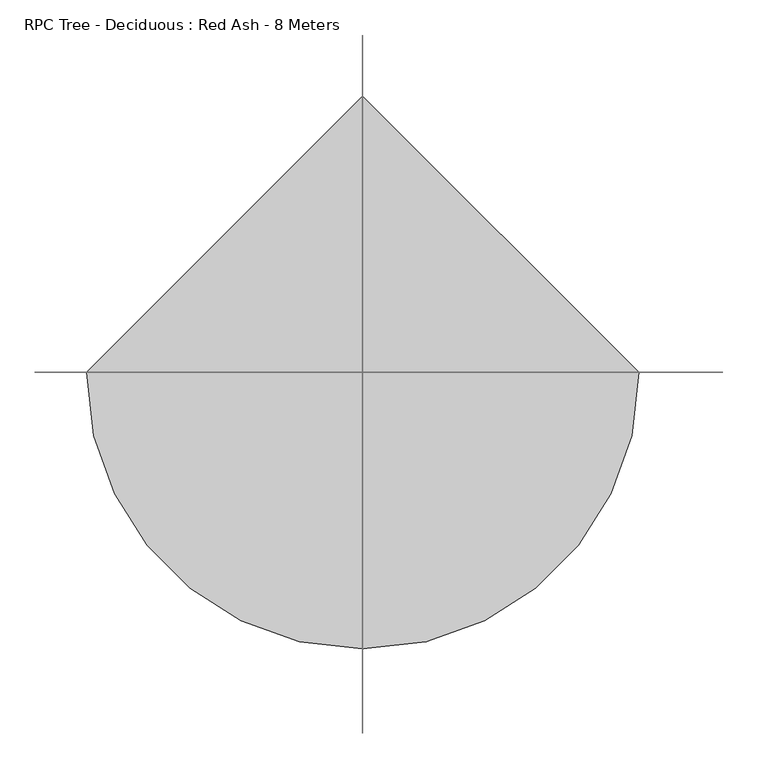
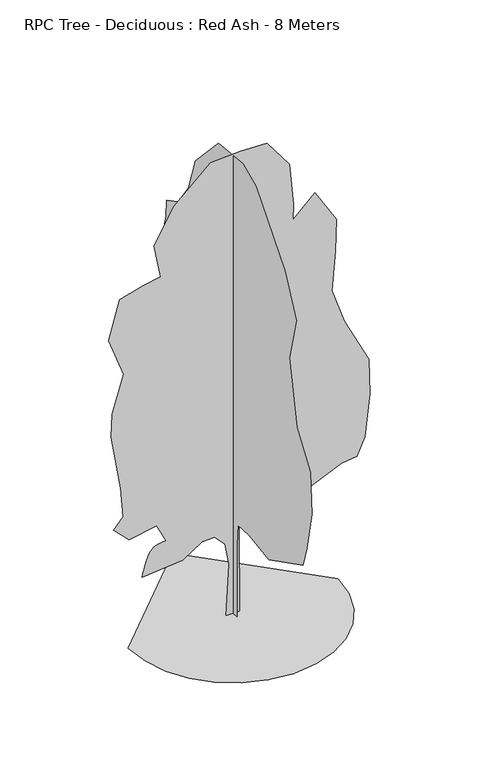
"""IFC4 building model written with IfcOpenShell, lengths in millimetres: geographic element geometry, RPC Tree - Deciduous : Red Ash - 8 Meters."""

from ifc_helpers import new_model, si_unit, origin, place, context, project, spatial, triangles, source, transform, mapped, element, save


def rpc_tree_deciduous_red_ash_8_meters_67bd5bca(model_context):
    return source(origin(), model_context, "Body", "Tessellation", [
        triangles([(-1726.984267, 0.0, 6.49e-05), (-1681.3281876, -395.710621, 6.49e-05), (-1551.3012405, -759.107444, 6.49e-05), (-1347.3138371, -1079.7788589, 6.49e-05), (-1079.7790043, -1347.3139824, 6.49e-05), (-759.1072987, -1551.3008045, 6.49e-05), (-395.7104393, -1681.3281876, 6.49e-05), (7.55e-05, -1726.984267, 6.49e-05), (395.710621, -1681.3283329, 6.49e-05), (759.1075167, -1551.3010952, 6.49e-05), (1079.7790043, -1347.3138371, 6.49e-05), (1347.3142731, -1079.7790043, 6.49e-05), (1551.3009499, -759.107226, 6.49e-05), (1681.3281876, -395.7103303, 6.49e-05), (1726.984267, 0.000151, 6.49e-05), (-0.0002265, 1726.984267, 6.49e-05), (-1.13e-05, -107.9750681, 0.0), (2.63e-05, -106.2957647, 1254.1250484), (3.39e-05, -136.3590096, 1614.4912788), (7e-07, -460.7090881, 1635.8693344), (-6.07e-05, -1025.0827063, 1552.028231), (-0.0001475, -1998.62757, 2045.8552105), (-0.0001483, -2111.5023663, 2412.6983711), (-0.0001429, -2252.595789, 3089.9468582), (-0.0001174, -2210.26814, 3795.4142624), (-6.1e-05, -1827.1727737, 4347.5247482), (-5.8e-06, -1603.5681084, 5417.9896408), (-3.7e-06, -1801.0973305, 6179.8937164), (5.03e-05, -1476.5826908, 6857.1424942), (0.0001647, -658.240781, 7830.6877213), (0.0002084, -286.8248799, 7998.1042465), (0.0002795, 414.0699291, 7929.4532043), (0.0003277, 1077.209321, 7223.9858002), (0.0003306, 1274.7403599, 6631.393483), (0.0003489, 1571.0355011, 6208.1129242), (0.0003777, 1895.5518848, 6038.8011658), (0.0003708, 1909.6610527, 5756.613739), (0.0003699, 1994.3173679, 5432.0986633), (0.0003438, 1853.2239452, 5051.1463348), (0.0003462, 1980.2080547, 4684.3036102), (0.0003443, 2107.1920189, 4176.3671722), (0.0003371, 2078.9735378, 4035.2731682), (0.000302, 1839.1147774, 3696.64907), (0.0002865, 1823.9491333, 3231.0405716), (0.0002764, 1810.8958603, 2934.7441223), (0.0002669, 1825.0051735, 2567.9013977), (0.0002532, 1839.1149227, 2059.9651051), (0.000228, 1641.5838112, 1904.7619331), (0.0001897, 1274.7409412, 1904.7619331), (0.0001918, 1444.0529903, 1382.7161819), (0.0001801, 1415.7429451, 1086.4929113), (0.0001592, 1158.0378902, 1289.0671017), (0.0001036, 660.8531942, 1161.8977564), (0.0001029, 579.2250009, 1424.7358555), (6.6e-05, 226.6800772, 1421.525005), (5.28e-05, 137.3241306, 1289.5900349), (3.43e-05, 83.5163594, 859.0899313), (1.23e-05, 117.7595908, 1.35e-05), (-116.3998627, 5.1e-06, 4.68e-05), (-70.038294, -0.0001013, 875.0673717), (-135.7556944, -0.0001427, 1247.1847744), (-305.2891053, -0.0001575, 1433.4043671), (-507.7548357, -0.0001479, 1426.4529018), (-835.9767345, -0.0001081, 1213.4040602), (-1499.1160538, -7.24e-05, 1156.9668074), (-1489.9429218, -7.71e-05, 1193.4537518), (-1480.1528217, -8.21e-05, 1231.1745598), (-1469.12864, -8.73e-05, 1271.3633858), (-1456.2532631, -9.31e-05, 1315.2548927), (-1440.9100136, -9.96e-05, 1364.0815636), (-1422.4816326, -0.000107, 1419.07966), (-1400.3508614, -0.0001154, 1481.4815197), (-1372.4612846, -0.0001235, 1539.3588009), (-1337.9077251, -0.0001301, 1581.6867405), (-1297.8010162, -0.0001353, 1611.0568954), (-1253.2514099, -0.0001395, 1630.0616947), (-1205.3703209, -0.000143, 1641.2913872), (-1155.2675652, -0.0001459, 1647.3381111), (-1104.0541941, -0.0001485, 1650.7937141), (-1259.2568573, -0.0001787, 1961.1993313), (-1710.7563332, -0.0001489, 1876.5431614), (-1964.7241161, -0.0001681, 2130.5118164), (-1809.5213802, -0.0001967, 2313.9333241), (-1851.8493198, -0.0002554, 2821.8699074), (-2007.0520557, -0.0003614, 3767.195636), (-1993.1556656, -0.0004086, 4158.7040062), (-1805.6876026, -0.0004922, 4790.8930344), (-2049.380286, -0.0005613, 5460.3172897), (-1865.9584877, -0.0006467, 6109.3474411), (-1485.0064499, -0.0006768, 6222.2219467), (-1195.1844601, -0.0006956, 6273.3467331), (-1301.5852329, -0.0007589, 6843.0334717), (-977.0698666, -0.000842, 7421.5173477), (-370.3677638, -0.0009341, 7971.7814346), (123.4589795, -0.0009591, 8000.000061), (560.8490513, -0.0009765, 7985.8898758), (927.6920666, -0.0009337, 7492.063623), (995.1412926, -0.0008504, 6769.0478714), (985.4560553, -0.0008184, 6503.9053345), (1350.9721893, -0.0008748, 6843.0334717), (1703.7060368, -0.0008213, 6264.550177), (1689.5968689, -0.0007555, 5718.1201584), (1626.7270145, -0.0006719, 5040.05457), (1830.6901463, -0.0006098, 4444.4444138), (2238.0725475, -0.000532, 3642.202684), (2251.0608536, -0.0004604, 3037.0704346), (2169.3143898, -0.0003707, 2313.9330334), (2042.3302803, -0.0003298, 2017.6367294), (1788.3620613, -0.0003153, 1989.4179577), (1294.5350819, -0.0002668, 1763.6683651), (857.1449192, -0.0002107, 1453.2628933), (270.3165852, -0.0002151, 1705.5841198), (97.6912027, -0.0001854, 1519.8265629), (109.3493302, -4.8e-06, 3.69e-05)], [[15, 16, 1], [14, 15, 1], [14, 1, 2], [13, 14, 2], [13, 2, 3], [13, 3, 4], [12, 13, 4], [11, 12, 4], [11, 4, 5], [11, 5, 6], [11, 6, 7], [11, 7, 8], [11, 8, 9], [11, 9, 10], [50, 51, 52], [57, 58, 17], [57, 17, 18], [56, 57, 18], [56, 18, 19], [55, 56, 19], [49, 50, 52], [52, 53, 54], [49, 52, 54], [35, 36, 37], [46, 47, 48], [46, 48, 49], [21, 22, 23], [20, 21, 23], [20, 23, 24], [20, 24, 25], [20, 25, 26], [19, 20, 26], [19, 26, 27], [45, 46, 49], [31, 32, 33], [30, 31, 33], [29, 30, 33], [29, 33, 34], [28, 29, 34], [27, 28, 34], [19, 27, 34], [19, 34, 35], [19, 35, 37], [19, 37, 38], [19, 38, 39], [19, 39, 40], [19, 40, 41], [19, 41, 42], [19, 42, 43], [19, 43, 44], [19, 44, 45], [19, 45, 49], [19, 49, 54], [55, 19, 54], [64, 65, 66], [64, 66, 67], [64, 67, 68], [99, 100, 101], [64, 68, 69], [64, 69, 70], [64, 70, 71], [114, 59, 60], [113, 114, 60], [113, 60, 61], [113, 61, 62], [64, 71, 72], [64, 72, 73], [64, 73, 74], [64, 74, 75], [64, 75, 76], [64, 76, 77], [64, 77, 78], [64, 78, 79], [63, 64, 79], [81, 82, 83], [80, 81, 83], [99, 101, 102], [107, 108, 109], [110, 111, 112], [88, 89, 90], [87, 88, 90], [87, 90, 91], [80, 83, 84], [95, 96, 97], [95, 97, 98], [94, 95, 98], [93, 94, 98], [92, 93, 98], [91, 92, 98], [91, 98, 99], [87, 91, 99], [87, 99, 102], [87, 102, 103], [87, 103, 104], [86, 87, 104], [85, 86, 104], [84, 85, 104], [80, 84, 104], [80, 104, 105], [80, 105, 106], [80, 106, 107], [80, 107, 109], [80, 109, 110], [80, 110, 112], [79, 80, 112], [63, 79, 112], [62, 63, 112], [113, 62, 112]], closed=False),
    ])


if __name__ == "__main__":
    model = new_model("IFC4")
    model_context = context("Model", 3, world=origin())
    ifc_project = project(units=[si_unit("LENGTHUNIT", "METRE", prefix="MILLI")], contexts=[model_context])
    site = spatial("IfcSite", under=ifc_project)
    building = spatial("IfcBuilding", under=site)
    placement = place(None, origin())
    rpc_tree_deciduous_red_ash_8_meters_shape = rpc_tree_deciduous_red_ash_8_meters_67bd5bca(model_context)
    element("IfcGeographicElement", 1, ObjectType="RPC Tree - Deciduous : Red Ash - 8 Meters", at=placement, inside=building, context=model_context, shape_type="MappedRepresentation", body=[
        mapped(rpc_tree_deciduous_red_ash_8_meters_shape, transform((0.0, 0.0, 0.0), x_axis=(1.0, 0.0, 0.0), y_axis=(0.0, 1.0, 0.0), z_axis=(0.0, 0.0, 1.0))),
    ])
    save(model, "model.ifc")
